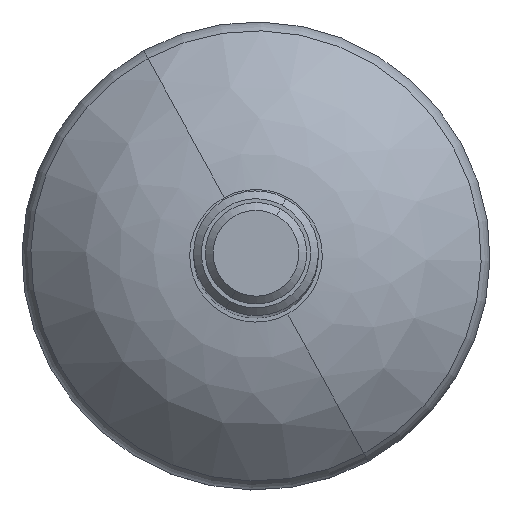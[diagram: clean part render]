
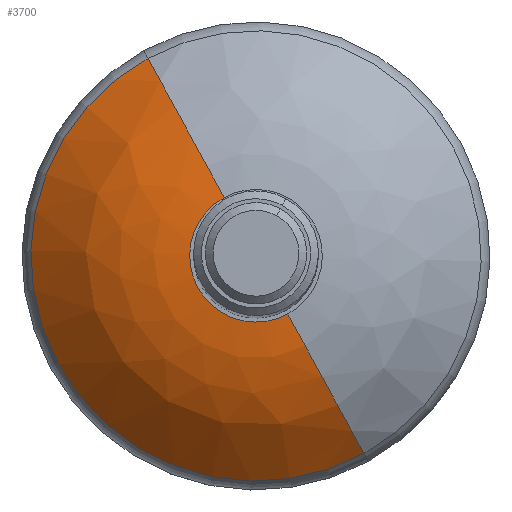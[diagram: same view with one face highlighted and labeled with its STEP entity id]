
A CAD part, top view. The second image highlights one B-rep face of the part: STEP entity #3700.
In plain terms, the highlighted face is a revolution surface.
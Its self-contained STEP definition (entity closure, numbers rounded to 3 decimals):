
#3632=CARTESIAN_POINT('Vertex',(4.075,-7.459,17.)) ;
#3634=CARTESIAN_POINT('Vertex',(-4.075,7.459,17.)) ;
#3637=CARTESIAN_POINT('Axis2P3D Location',(0.,0.,17.)) ;
#3666=CARTESIAN_POINT('Control Point',(-13.838,25.33,6.173)) ;
#3667=CARTESIAN_POINT('Control Point',(-12.037,22.034,10.747)) ;
#3668=CARTESIAN_POINT('Control Point',(-9.657,17.677,14.335)) ;
#3669=CARTESIAN_POINT('Control Point',(-6.9,12.63,16.444)) ;
#3670=CARTESIAN_POINT('Control Point',(-4.075,7.459,17.)) ;
#3671=CARTESIAN_POINT('Axis1P Location',(0.,0.,-12.867)) ;
#3675=CARTESIAN_POINT('Axis2P3D Location',(-2.724,4.985,-12.867)) ;
#3679=CARTESIAN_POINT('Vertex',(-13.838,25.33,6.173)) ;
#3682=CARTESIAN_POINT('Axis2P3D Location',(0.,0.,6.173)) ;
#3686=CARTESIAN_POINT('Vertex',(13.838,-25.33,6.173)) ;
#3689=CARTESIAN_POINT('Axis2P3D Location',(2.724,-4.985,-12.867)) ;
#3638=DIRECTION('Axis2P3D Direction',(0.,0.,1.)) ;
#3672=DIRECTION('Axis1P Direction',(-0.,-0.,-1.)) ;
#3676=DIRECTION('Axis2P3D Direction',(0.878,0.479,-0.)) ;
#3683=DIRECTION('Axis2P3D Direction',(0.,0.,1.)) ;
#3690=DIRECTION('Axis2P3D Direction',(-0.878,-0.479,0.)) ;
#3639=AXIS2_PLACEMENT_3D('Circle Axis2P3D',#3637,#3638,$) ;
#3677=AXIS2_PLACEMENT_3D('Circle Axis2P3D',#3675,#3676,$) ;
#3684=AXIS2_PLACEMENT_3D('Circle Axis2P3D',#3682,#3683,$) ;
#3691=AXIS2_PLACEMENT_3D('Circle Axis2P3D',#3689,#3690,$) ;
#3695=ORIENTED_EDGE('',*,*,#3681,.F.) ;
#3696=ORIENTED_EDGE('',*,*,#3688,.T.) ;
#3697=ORIENTED_EDGE('',*,*,#3693,.T.) ;
#3698=ORIENTED_EDGE('',*,*,#3641,.F.) ;
#3700=ADVANCED_FACE('PartBody',(#3699),#3674,.F.) ;
#3673=AXIS1_PLACEMENT('Revolution Surface Axis1P',#3671,#3672) ;
#3665=B_SPLINE_CURVE_WITH_KNOTS('',4,(#3666,#3667,#3668,#3669,#3670),.UNSPECIFIED.,.F.,.U.,(5,5),(20.628,44.301),.UNSPECIFIED.) ;
#3640=CIRCLE('generated circle',#3639,8.5) ;
#3678=CIRCLE('generated circle',#3677,30.) ;
#3685=CIRCLE('generated circle',#3684,28.864) ;
#3692=CIRCLE('generated circle',#3691,30.) ;
#3641=EDGE_CURVE('',#3635,#3633,#3640,.T.) ;
#3681=EDGE_CURVE('',#3680,#3635,#3678,.T.) ;
#3688=EDGE_CURVE('',#3680,#3687,#3685,.T.) ;
#3693=EDGE_CURVE('',#3687,#3633,#3692,.T.) ;
#3694=EDGE_LOOP('',(#3695,#3696,#3697,#3698)) ;
#3699=FACE_OUTER_BOUND('',#3694,.T.) ;
#3674=SURFACE_OF_REVOLUTION('homeo Torus',#3665,#3673) ;
#3633=VERTEX_POINT('',#3632) ;
#3635=VERTEX_POINT('',#3634) ;
#3680=VERTEX_POINT('',#3679) ;
#3687=VERTEX_POINT('',#3686) ;
